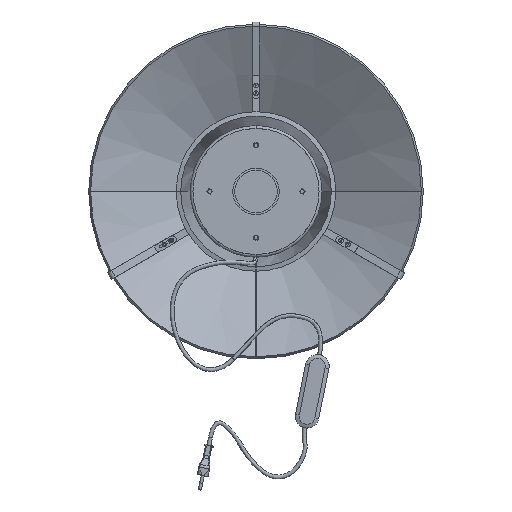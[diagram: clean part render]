
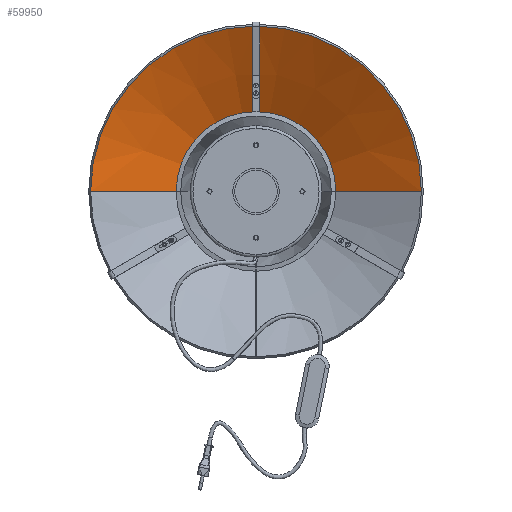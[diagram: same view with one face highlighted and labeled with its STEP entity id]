
A CAD part, front view. The second image highlights one B-rep face of the part: STEP entity #59950.
In plain terms, the highlighted conical face has half-angle 60 degrees and reference radius 32.5 mm.
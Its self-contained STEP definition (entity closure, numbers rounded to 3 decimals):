
#2091 = DIRECTION ( 'NONE',  ( 0., -0.5, 0.866 ) ) ;
#3733 = VECTOR ( 'NONE', #7464, 1000. ) ;
#6134 = LINE ( 'NONE', #55833, #72849 ) ;
#7464 = DIRECTION ( 'NONE',  ( 0., -0.5, -0.866 ) ) ;
#8725 = AXIS2_PLACEMENT_3D ( 'NONE', #43629, #60892, #56528 ) ;
#17097 = AXIS2_PLACEMENT_3D ( 'NONE', #43307, #49942, #66844 ) ;
#18223 = EDGE_LOOP ( 'NONE', ( #59430, #22562, #24963, #53885 ) ) ;
#22562 = ORIENTED_EDGE ( 'NONE', *, *, #76805, .T. ) ;
#24963 = ORIENTED_EDGE ( 'NONE', *, *, #33929, .F. ) ;
#26166 = DIRECTION ( 'NONE',  ( 0., 0., 1. ) ) ;
#32163 = LINE ( 'NONE', #56064, #3733 ) ;
#33795 = CARTESIAN_POINT ( 'NONE',  ( 0., -4.33, -32.5 ) ) ;
#33929 = EDGE_CURVE ( 'NONE', #65117, #43327, #52818, .T. ) ;
#35157 = EDGE_CURVE ( 'NONE', #63565, #65117, #32163, .T. ) ;
#36649 = CARTESIAN_POINT ( 'NONE',  ( 0., -109.03, 213.846 ) ) ;
#39748 = EDGE_CURVE ( 'NONE', #63565, #58756, #41315, .T. ) ;
#40976 = FACE_OUTER_BOUND ( 'NONE', #18223, .T. ) ;
#41315 = CIRCLE ( 'NONE', #8725, 32.5 ) ;
#43307 = CARTESIAN_POINT ( 'NONE',  ( 0., -4.33, 0. ) ) ;
#43327 = VERTEX_POINT ( 'NONE', #36649 ) ;
#43629 = CARTESIAN_POINT ( 'NONE',  ( 0., -4.33, 0. ) ) ;
#48834 = CARTESIAN_POINT ( 'NONE',  ( 0., -109.03, -213.846 ) ) ;
#49942 = DIRECTION ( 'NONE',  ( 0., -1., 0. ) ) ;
#52818 = CIRCLE ( 'NONE', #74194, 213.846 ) ;
#53885 = ORIENTED_EDGE ( 'NONE', *, *, #35157, .F. ) ;
#55833 = CARTESIAN_POINT ( 'NONE',  ( 0., -4.33, 32.5 ) ) ;
#56064 = CARTESIAN_POINT ( 'NONE',  ( 0., -4.33, -32.5 ) ) ;
#56528 = DIRECTION ( 'NONE',  ( 0., 0., 1. ) ) ;
#58756 = VERTEX_POINT ( 'NONE', #64423 ) ;
#59430 = ORIENTED_EDGE ( 'NONE', *, *, #39748, .T. ) ;
#59950 = ADVANCED_FACE ( 'NONE', ( #40976 ), #74745, .F. ) ;
#60892 = DIRECTION ( 'NONE',  ( 0., 1., 0. ) ) ;
#61478 = CARTESIAN_POINT ( 'NONE',  ( 0., -109.03, 0. ) ) ;
#62230 = DIRECTION ( 'NONE',  ( 0., 1., 0. ) ) ;
#63565 = VERTEX_POINT ( 'NONE', #33795 ) ;
#64423 = CARTESIAN_POINT ( 'NONE',  ( 0., -4.33, 32.5 ) ) ;
#65117 = VERTEX_POINT ( 'NONE', #48834 ) ;
#66844 = DIRECTION ( 'NONE',  ( 0., 0., -1. ) ) ;
#72849 = VECTOR ( 'NONE', #2091, 1000. ) ;
#74194 = AXIS2_PLACEMENT_3D ( 'NONE', #61478, #62230, #26166 ) ;
#74745 = CONICAL_SURFACE ( 'NONE', #17097, 32.5, 1.047 ) ;
#76805 = EDGE_CURVE ( 'NONE', #58756, #43327, #6134, .T. ) ;
